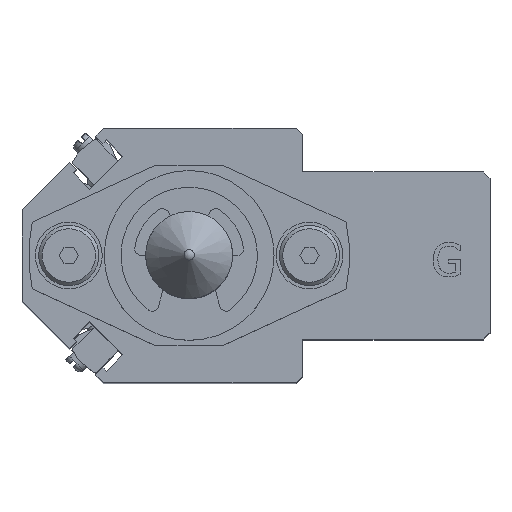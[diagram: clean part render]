
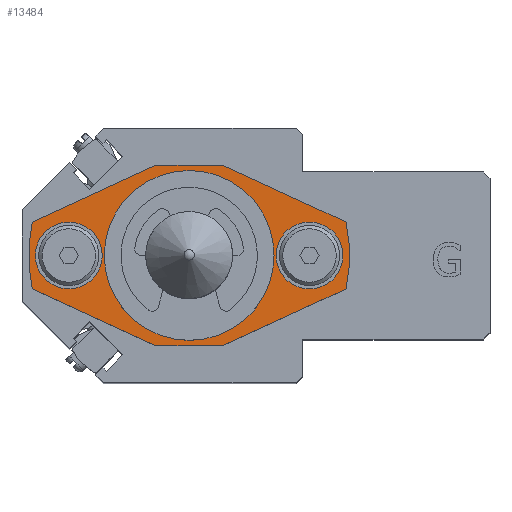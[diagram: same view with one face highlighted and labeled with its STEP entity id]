
A CAD part, top view. The second image highlights one B-rep face of the part: STEP entity #13484.
In plain terms, the highlighted planar face has unit normal (0, 0, 1).
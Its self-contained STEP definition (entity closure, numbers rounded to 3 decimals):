
#382=FACE_BOUND('',#4880,.T.);
#383=FACE_BOUND('',#4881,.T.);
#384=FACE_BOUND('',#4882,.T.);
#1574=LINE('',#22023,#2964);
#1581=LINE('',#22040,#2971);
#1582=LINE('',#22043,#2972);
#1583=LINE('',#22044,#2973);
#1584=LINE('',#22046,#2974);
#1585=LINE('',#22047,#2975);
#2964=VECTOR('',#17891,10.);
#2971=VECTOR('',#17906,10.);
#2972=VECTOR('',#17909,10.);
#2973=VECTOR('',#17910,10.);
#2974=VECTOR('',#17911,10.);
#2975=VECTOR('',#17912,10.);
#3454=CIRCLE('',#14762,10.5);
#3455=CIRCLE('',#14763,10.5);
#3462=CIRCLE('',#14774,24.);
#3464=CIRCLE('',#14777,24.);
#3467=CIRCLE('',#14784,5.);
#3468=CIRCLE('',#14785,5.);
#3469=CIRCLE('',#14786,5.);
#3470=CIRCLE('',#14787,5.);
#4172=FACE_OUTER_BOUND('',#4879,.T.);
#4879=EDGE_LOOP('',(#11273,#11274,#11275,#11276,#11277,#11278,#11279,#11280));
#4880=EDGE_LOOP('',(#11281,#11282));
#4881=EDGE_LOOP('',(#11283,#11284));
#4882=EDGE_LOOP('',(#11285,#11286));
#6112=VERTEX_POINT('',#21981);
#6113=VERTEX_POINT('',#21983);
#6121=VERTEX_POINT('',#22004);
#6122=VERTEX_POINT('',#22006);
#6125=VERTEX_POINT('',#22013);
#6126=VERTEX_POINT('',#22015);
#6128=VERTEX_POINT('',#22021);
#6134=VERTEX_POINT('',#22038);
#6135=VERTEX_POINT('',#22042);
#6136=VERTEX_POINT('',#22045);
#6137=VERTEX_POINT('',#22048);
#6138=VERTEX_POINT('',#22049);
#6139=VERTEX_POINT('',#22052);
#6140=VERTEX_POINT('',#22053);
#7897=EDGE_CURVE('',#6113,#6112,#3454,.T.);
#7898=EDGE_CURVE('',#6112,#6113,#3455,.T.);
#7907=EDGE_CURVE('',#6122,#6121,#3462,.T.);
#7911=EDGE_CURVE('',#6126,#6125,#3464,.T.);
#7915=EDGE_CURVE('',#6121,#6128,#1574,.T.);
#7924=EDGE_CURVE('',#6125,#6134,#1581,.T.);
#7925=EDGE_CURVE('',#6128,#6135,#1582,.T.);
#7926=EDGE_CURVE('',#6135,#6126,#1583,.T.);
#7927=EDGE_CURVE('',#6134,#6136,#1584,.T.);
#7928=EDGE_CURVE('',#6136,#6122,#1585,.T.);
#7929=EDGE_CURVE('',#6137,#6138,#3467,.T.);
#7930=EDGE_CURVE('',#6138,#6137,#3468,.T.);
#7931=EDGE_CURVE('',#6139,#6140,#3469,.T.);
#7932=EDGE_CURVE('',#6140,#6139,#3470,.T.);
#11273=ORIENTED_EDGE('',*,*,#7907,.T.);
#11274=ORIENTED_EDGE('',*,*,#7915,.T.);
#11275=ORIENTED_EDGE('',*,*,#7925,.T.);
#11276=ORIENTED_EDGE('',*,*,#7926,.T.);
#11277=ORIENTED_EDGE('',*,*,#7911,.T.);
#11278=ORIENTED_EDGE('',*,*,#7924,.T.);
#11279=ORIENTED_EDGE('',*,*,#7927,.T.);
#11280=ORIENTED_EDGE('',*,*,#7928,.T.);
#11281=ORIENTED_EDGE('',*,*,#7897,.T.);
#11282=ORIENTED_EDGE('',*,*,#7898,.T.);
#11283=ORIENTED_EDGE('',*,*,#7929,.T.);
#11284=ORIENTED_EDGE('',*,*,#7930,.T.);
#11285=ORIENTED_EDGE('',*,*,#7931,.T.);
#11286=ORIENTED_EDGE('',*,*,#7932,.T.);
#12688=PLANE('',#14783);
#13484=ADVANCED_FACE('',(#4172,#382,#383,#384),#12688,.T.);
#14762=AXIS2_PLACEMENT_3D('',#21984,#17850,#17851);
#14763=AXIS2_PLACEMENT_3D('',#21985,#17852,#17853);
#14774=AXIS2_PLACEMENT_3D('',#22007,#17876,#17877);
#14777=AXIS2_PLACEMENT_3D('',#22016,#17884,#17885);
#14783=AXIS2_PLACEMENT_3D('',#22041,#17907,#17908);
#14784=AXIS2_PLACEMENT_3D('',#22050,#17913,#17914);
#14785=AXIS2_PLACEMENT_3D('',#22051,#17915,#17916);
#14786=AXIS2_PLACEMENT_3D('',#22054,#17917,#17918);
#14787=AXIS2_PLACEMENT_3D('',#22055,#17919,#17920);
#17850=DIRECTION('center_axis',(0.,0.,-1.));
#17851=DIRECTION('ref_axis',(1.,0.,0.));
#17852=DIRECTION('center_axis',(0.,0.,-1.));
#17853=DIRECTION('ref_axis',(1.,0.,0.));
#17876=DIRECTION('center_axis',(0.,0.,1.));
#17877=DIRECTION('ref_axis',(0.978,-0.208,0.));
#17884=DIRECTION('center_axis',(0.,0.,1.));
#17885=DIRECTION('ref_axis',(-0.978,0.208,0.));
#17891=DIRECTION('',(0.908,-0.418,0.));
#17906=DIRECTION('',(-0.908,0.418,0.));
#17907=DIRECTION('center_axis',(0.,0.,1.));
#17908=DIRECTION('ref_axis',(1.,0.,0.));
#17909=DIRECTION('',(1.,0.,0.));
#17910=DIRECTION('',(0.908,0.418,0.));
#17911=DIRECTION('',(-1.,0.,0.));
#17912=DIRECTION('',(-0.908,-0.418,0.));
#17913=DIRECTION('center_axis',(0.,0.,-1.));
#17914=DIRECTION('ref_axis',(1.,0.,0.));
#17915=DIRECTION('center_axis',(0.,0.,-1.));
#17916=DIRECTION('ref_axis',(1.,0.,0.));
#17917=DIRECTION('center_axis',(0.,0.,-1.));
#17918=DIRECTION('ref_axis',(1.,0.,0.));
#17919=DIRECTION('center_axis',(0.,0.,-1.));
#17920=DIRECTION('ref_axis',(1.,0.,0.));
#21981=CARTESIAN_POINT('',(-10.5,0.,6.));
#21983=CARTESIAN_POINT('',(10.5,0.,6.));
#21984=CARTESIAN_POINT('Origin',(0.,0.,6.));
#21985=CARTESIAN_POINT('Origin',(0.,0.,6.));
#22004=CARTESIAN_POINT('',(-23.473,-5.001,6.));
#22006=CARTESIAN_POINT('',(-23.473,5.001,6.));
#22007=CARTESIAN_POINT('Origin',(0.,0.,6.));
#22013=CARTESIAN_POINT('',(23.473,5.001,6.));
#22015=CARTESIAN_POINT('',(23.473,-5.001,6.));
#22016=CARTESIAN_POINT('Origin',(0.,0.,6.));
#22021=CARTESIAN_POINT('',(-5.,-13.5,6.));
#22023=CARTESIAN_POINT('',(-15.7,-8.578,6.));
#22038=CARTESIAN_POINT('',(5.,13.5,6.));
#22040=CARTESIAN_POINT('',(15.7,8.578,6.));
#22041=CARTESIAN_POINT('Origin',(0.,0.,6.));
#22042=CARTESIAN_POINT('',(5.,-13.5,6.));
#22043=CARTESIAN_POINT('',(25.4,-13.5,6.));
#22044=CARTESIAN_POINT('',(15.7,-8.578,6.));
#22045=CARTESIAN_POINT('',(-5.,13.5,6.));
#22046=CARTESIAN_POINT('',(-25.4,13.5,6.));
#22047=CARTESIAN_POINT('',(-15.7,8.578,6.));
#22048=CARTESIAN_POINT('',(-13.,0.,6.));
#22049=CARTESIAN_POINT('',(-23.,0.,6.));
#22050=CARTESIAN_POINT('Origin',(-18.,0.,6.));
#22051=CARTESIAN_POINT('Origin',(-18.,0.,6.));
#22052=CARTESIAN_POINT('',(23.,0.,6.));
#22053=CARTESIAN_POINT('',(13.,0.,6.));
#22054=CARTESIAN_POINT('Origin',(18.,0.,6.));
#22055=CARTESIAN_POINT('Origin',(18.,0.,6.));
